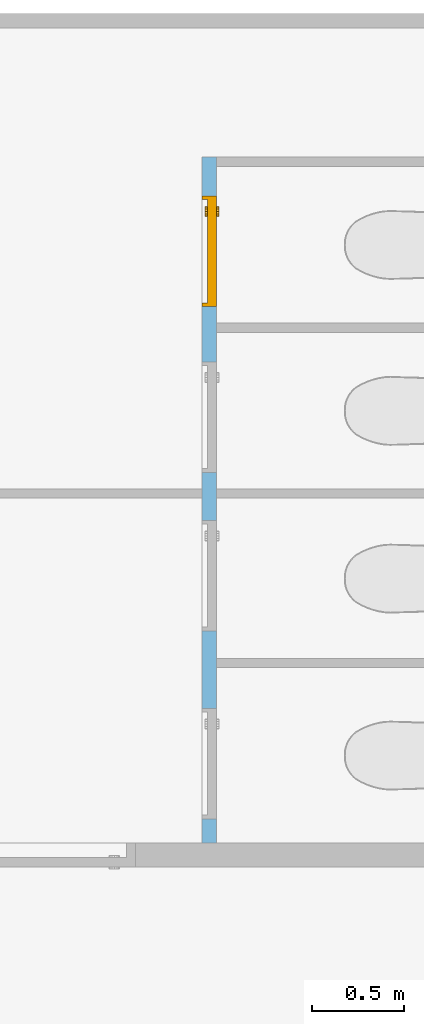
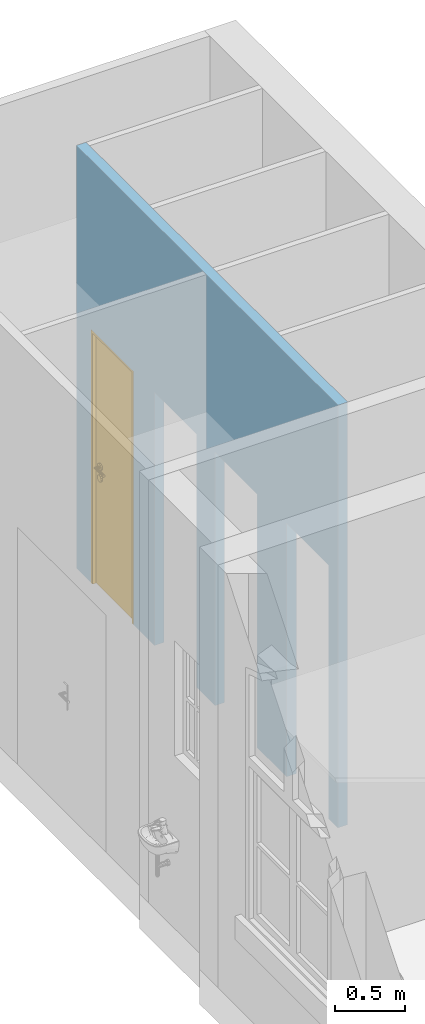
"""IFC4 building model written with IfcOpenShell, lengths in metres."""

from ifc_helpers import new_model, entity, si_unit, converted_unit, derived_unit, frame, frame_2d, origin, origin_with_axes, place, context, subcontext, project, spatial, polyline, rectangle, outline, extrude, faceted_brep, source, transform, mapped, material, layer, layer_set, layer_usage, type_object, element, fill, save


model = new_model("IFC4")

# Units and contexts
model_context = context("Model", 3, precision=1e-05, world=origin())
body_context = subcontext(model_context, "Body", "Model", "MODEL_VIEW")
ifc_project = project(units=[si_unit("LENGTHUNIT", "METRE"), si_unit("AREAUNIT", "SQUARE_METRE"), si_unit("VOLUMEUNIT", "CUBIC_METRE"), si_unit("MASSUNIT", "GRAM", prefix="KILO"), converted_unit("PLANEANGLEUNIT", "DEGREE", entity("IfcPlaneAngleMeasure", 0.0174532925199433), si_unit("PLANEANGLEUNIT", "RADIAN"), dimensions=[0, 0, 0, 0, 0, 0, 0]), derived_unit("THERMALTRANSMITTANCEUNIT", [(si_unit("POWERUNIT", "WATT"), 1), (si_unit("THERMODYNAMICTEMPERATUREUNIT", "KELVIN"), -1), (si_unit("LENGTHUNIT", "METRE"), -2)]), derived_unit("VOLUMETRICFLOWRATEUNIT", [(si_unit("LENGTHUNIT", "METRE"), 3), (converted_unit("TIMEUNIT", "hour", entity("IfcTimeMeasure", 3600.0), si_unit("TIMEUNIT", "SECOND"), dimensions=[0, 0, 1, 0, 0, 0, 0]), -1), (si_unit("LENGTHUNIT", "METRE"), -1)])], contexts=[model_context])

# Building, storeys
building_placement = place(None, origin())
building = spatial("IfcBuilding", under=ifc_project, at=building_placement, Name="Bestandsgebäude A - Sporthalle / Wohnhaus (TB 100-499)   ANPASSEN !!!", CompositionType="ELEMENT")
storey_1_placement = place(building_placement, origin())
storey_1 = spatial("IfcBuildingStorey", under=building, at=storey_1_placement, Name="Geb. A Erdgeschoss (TB 200-249)", CompositionType="ELEMENT", Elevation=0.0)
storey_2_placement = place(storey_1_placement, origin())
storey_2 = spatial("IfcBuildingStorey", under=storey_1, at=storey_2_placement, Name="Architektur (TB 200-209)", CompositionType="PARTIAL")

# Wall, openings, door
ifc_material = material(Name="masonry")
ifc_layer = layer(ifc_material, 0.08)
ifc_layer_set = layer_set([ifc_layer])
ifc_layer_usage = layer_usage(ifc_layer_set, "AXIS2", "POSITIVE", 0.0)
wall_placement = place(storey_2_placement, frame((-1.75999999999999, 20.98, 0.0), z_axis=(0.0, 0.0, 1.0), x_axis=(0.0, -1.0, 0.0)))
wall = element("IfcWall", 1, at=wall_placement, inside=storey_2, material=ifc_layer_usage, Name="masonry load-bearing", PredefinedType="USERDEFINED", context=body_context, shape_type="SweptSolid", body=[
    extrude(rectangle(XDim=3.72000000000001, YDim=0.08, at=frame_2d((1.86, 0.04), x_axis=(1.0, 0.0))), origin_with_axes(), (0.0, 0.0, 1.0), 3.67),
])
opening_1_placement = place(wall_placement, frame((0.210000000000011, 0.0, 0.0), z_axis=(0.0, 1.0, 0.0), x_axis=(0.0, 0.0, 1.0)))
opening_1 = element("IfcOpeningElement", 2, at=opening_1_placement, cuts=wall, Name="Door opening", PredefinedType="OPENING", context=body_context, shape_type="SweptSolid", body=[
    extrude(outline(polyline([(2.2, 0.6), (2.2, 0.0), (0.0, 0.0), (0.0, 0.6), (2.2, 0.6)])), origin_with_axes(), (0.0, 0.0, 1.0), 0.08),
])
opening_2_placement = place(wall_placement, frame((1.11000000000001, 0.0, 0.0), z_axis=(0.0, 1.0, 0.0), x_axis=(0.0, 0.0, 1.0)))
element("IfcOpeningElement", 3, at=opening_2_placement, cuts=wall, Name="Door opening", PredefinedType="OPENING", context=body_context, shape_type="SweptSolid", body=[
    extrude(outline(polyline([(2.2, 0.6), (2.2, 0.0), (0.0, 0.0), (0.0, 0.6), (2.2, 0.6)])), origin_with_axes(), (0.0, 0.0, 1.0), 0.08),
])
opening_3_placement = place(wall_placement, frame((2.99000000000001, 0.0, 0.0), z_axis=(0.0, 1.0, 0.0), x_axis=(0.0, 0.0, 1.0)))
element("IfcOpeningElement", 4, at=opening_3_placement, cuts=wall, Name="Door opening", PredefinedType="OPENING", context=body_context, shape_type="SweptSolid", body=[
    extrude(outline(polyline([(2.2, 0.6), (2.2, 0.0), (0.0, 0.0), (0.0, 0.6), (2.2, 0.6)])), origin_with_axes(), (0.0, 0.0, 1.0), 0.08),
])
opening_4_placement = place(wall_placement, frame((1.97000000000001, 0.0, 0.0), z_axis=(0.0, 1.0, 0.0), x_axis=(0.0, 0.0, 1.0)))
element("IfcOpeningElement", 5, at=opening_4_placement, cuts=wall, Name="Door opening", PredefinedType="OPENING", context=body_context, shape_type="SweptSolid", body=[
    extrude(outline(polyline([(2.2, 0.6), (2.2, 0.0), (0.0, 0.0), (0.0, 0.6), (2.2, 0.6)])), origin_with_axes(), (0.0, 0.0, 1.0), 0.08),
])
door_type = type_object("IfcDoorType", Name="door", OperationType="SINGLE_SWING_RIGHT", ParameterTakesPrecedence=False, PredefinedType="DOOR")
shared_shape = source(origin_with_axes(), body_context, "Body", "Brep", [
    faceted_brep([(0.0, 0.0800000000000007, 2.2), (0.0, 0.0800000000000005, 0.0), (0.0200000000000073, 0.0800000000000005, 0.0), (0.0200000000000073, 0.0800000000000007, 2.2), (0.0, 0.0, 0.0), (0.0, 0.0, 2.2), (0.0200000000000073, 0.0, 2.2), (0.0200000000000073, 0.0, 0.0)], [[[0, 1, 2, 3]], [[4, 5, 6, 7]], [[1, 0, 5, 4]], [[2, 1, 4, 7]], [[3, 2, 7, 6]], [[0, 3, 6, 5]]], orient=[[False], [False], [False], [False], [False], [False]]),
    faceted_brep([(0.580000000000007, 0.0800000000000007, 2.2), (0.580000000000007, 0.0800000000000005, 0.0), (0.600000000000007, 0.0800000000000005, 0.0), (0.600000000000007, 0.0800000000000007, 2.2), (0.580000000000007, 0.0, 0.0), (0.580000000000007, 0.0, 2.2), (0.600000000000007, 0.0, 2.2), (0.600000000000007, 0.0, 0.0)], [[[0, 1, 2, 3]], [[4, 5, 6, 7]], [[1, 0, 5, 4]], [[2, 1, 4, 7]], [[3, 2, 7, 6]], [[0, 3, 6, 5]]], orient=[[False], [False], [False], [False], [False], [False]]),
    faceted_brep([(0.0200000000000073, 0.0800000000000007, 2.2), (0.0200000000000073, 0.0800000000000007, 2.18), (0.580000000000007, 0.0800000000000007, 2.18), (0.580000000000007, 0.0800000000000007, 2.2), (0.0200000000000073, 0.0, 2.18), (0.0200000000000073, 0.0, 2.2), (0.580000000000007, 0.0, 2.2), (0.580000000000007, 0.0, 2.18)], [[[0, 1, 2, 3]], [[4, 5, 6, 7]], [[1, 0, 5, 4]], [[2, 1, 4, 7]], [[3, 2, 7, 6]], [[0, 3, 6, 5]]], orient=[[False], [False], [False], [False], [False], [False]]),
    faceted_brep([(0.0200000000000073, 0.0800000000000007, 2.18), (0.0200000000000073, 0.0800000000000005, 0.0), (0.580000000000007, 0.0800000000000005, 0.0), (0.580000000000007, 0.0800000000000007, 2.18), (0.0200000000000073, 0.0300000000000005, 0.0), (0.0200000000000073, 0.0300000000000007, 2.18), (0.580000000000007, 0.0300000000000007, 2.18), (0.580000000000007, 0.0300000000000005, 0.0)], [[[0, 1, 2, 3]], [[4, 5, 6, 7]], [[1, 0, 5, 4]], [[2, 1, 4, 7]], [[3, 2, 7, 6]], [[0, 3, 6, 5]]], orient=[[False], [False], [False], [False], [False], [False]]),
    faceted_brep([(0.108815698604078, 0.0300000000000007, 0.93625), (0.112500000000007, 0.0300000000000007, 0.95), (0.108815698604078, 0.0300000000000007, 0.96375), (0.0987500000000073, 0.0300000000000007, 0.973815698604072), (0.0850000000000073, 0.0300000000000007, 0.9775), (0.0712500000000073, 0.0300000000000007, 0.973815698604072), (0.0611843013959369, 0.0300000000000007, 0.96375), (0.0575000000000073, 0.0300000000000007, 0.95), (0.0611843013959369, 0.0300000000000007, 0.93625), (0.0712500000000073, 0.0300000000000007, 0.926184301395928), (0.0850000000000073, 0.0300000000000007, 0.9225), (0.0987500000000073, 0.0300000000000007, 0.926184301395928), (0.112500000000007, 0.0175000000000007, 0.95), (0.108815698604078, 0.0175000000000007, 0.93625), (0.0987500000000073, 0.0175000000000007, 0.926184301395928), (0.0850000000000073, 0.0175000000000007, 0.9225), (0.0712500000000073, 0.0175000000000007, 0.926184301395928), (0.0611843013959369, 0.0175000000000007, 0.93625), (0.0575000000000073, 0.0175000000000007, 0.95), (0.0611843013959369, 0.0175000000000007, 0.96375), (0.0712500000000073, 0.0175000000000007, 0.973815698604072), (0.0850000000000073, 0.0175000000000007, 0.9775), (0.0987500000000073, 0.0175000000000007, 0.973815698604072), (0.108815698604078, 0.0175000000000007, 0.96375)], [[[0, 1, 2, 3, 4, 5, 6, 7, 8, 9, 10, 11]], [[12, 13, 14, 15, 16, 17, 18, 19, 20, 21, 22, 23]], [[1, 0, 13, 12]], [[2, 1, 12, 23]], [[3, 2, 23, 22]], [[4, 3, 22, 21]], [[5, 4, 21, 20]], [[6, 5, 20, 19]], [[7, 6, 19, 18]], [[8, 7, 18, 17]], [[9, 8, 17, 16]], [[10, 9, 16, 15]], [[11, 10, 15, 14]], [[0, 11, 14, 13]]], orient=[[False], [False], [False], [False], [False], [False], [False], [False], [False], [False], [False], [False], [False], [False]]),
    faceted_brep([(0.108815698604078, 0.0300000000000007, 1.03625), (0.112500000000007, 0.0300000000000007, 1.05), (0.108815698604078, 0.0300000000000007, 1.06375), (0.0987500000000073, 0.0300000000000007, 1.07381569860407), (0.0850000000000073, 0.0300000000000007, 1.0775), (0.0712500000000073, 0.0300000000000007, 1.07381569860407), (0.0611843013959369, 0.0300000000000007, 1.06375), (0.0575000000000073, 0.0300000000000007, 1.05), (0.0611843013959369, 0.0300000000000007, 1.03625), (0.0712500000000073, 0.0300000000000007, 1.02618430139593), (0.0850000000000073, 0.0300000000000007, 1.0225), (0.0987500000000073, 0.0300000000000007, 1.02618430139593), (0.112500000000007, 0.0175000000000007, 1.05), (0.108815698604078, 0.0175000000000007, 1.03625), (0.0987500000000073, 0.0175000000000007, 1.02618430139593), (0.0850000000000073, 0.0175000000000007, 1.0225), (0.0712500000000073, 0.0175000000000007, 1.02618430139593), (0.0611843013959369, 0.0175000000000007, 1.03625), (0.0575000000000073, 0.0175000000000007, 1.05), (0.0611843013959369, 0.0175000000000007, 1.06375), (0.0712500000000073, 0.0175000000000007, 1.07381569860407), (0.0850000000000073, 0.0175000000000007, 1.0775), (0.0987500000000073, 0.0175000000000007, 1.07381569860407), (0.108815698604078, 0.0175000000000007, 1.06375)], [[[0, 1, 2, 3, 4, 5, 6, 7, 8, 9, 10, 11]], [[12, 13, 14, 15, 16, 17, 18, 19, 20, 21, 22, 23]], [[1, 0, 13, 12]], [[2, 1, 12, 23]], [[3, 2, 23, 22]], [[4, 3, 22, 21]], [[5, 4, 21, 20]], [[6, 5, 20, 19]], [[7, 6, 19, 18]], [[8, 7, 18, 17]], [[9, 8, 17, 16]], [[10, 9, 16, 15]], [[11, 10, 15, 14]], [[0, 11, 14, 13]]], orient=[[False], [False], [False], [False], [False], [False], [False], [False], [False], [False], [False], [False], [False], [False]]),
    faceted_brep([(0.0850000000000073, 0.0300000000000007, 1.06), (0.0800000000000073, 0.0300000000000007, 1.05866025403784), (0.0763397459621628, 0.0300000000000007, 1.055), (0.0750000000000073, 0.0300000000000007, 1.05), (0.0763397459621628, 0.0300000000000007, 1.045), (0.0800000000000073, 0.0300000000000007, 1.04133974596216), (0.0850000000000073, 0.0300000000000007, 1.04), (0.0900000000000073, 0.0300000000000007, 1.04133974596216), (0.0936602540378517, 0.0300000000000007, 1.045), (0.0950000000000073, 0.0300000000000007, 1.05), (0.0936602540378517, 0.0300000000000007, 1.055), (0.0900000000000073, 0.0300000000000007, 1.05866025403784), (0.0850000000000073, -0.00999999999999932, 1.06), (0.0800000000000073, -0.0149999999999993, 1.05866025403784), (0.0763397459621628, -0.0186602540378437, 1.055), (0.0750000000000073, -0.0199999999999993, 1.05), (0.0763397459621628, -0.0186602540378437, 1.045), (0.0800000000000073, -0.0149999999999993, 1.04133974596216), (0.0850000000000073, -0.00999999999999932, 1.04), (0.0900000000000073, -0.00499999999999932, 1.04133974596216), (0.0936602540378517, -0.00133974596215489, 1.045), (0.0950000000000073, 0.0, 1.05), (0.0936602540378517, -0.00133974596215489, 1.055), (0.0900000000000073, -0.00499999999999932, 1.05866025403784), (0.200000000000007, -0.00999999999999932, 1.06), (0.200000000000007, -0.00499999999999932, 1.05866025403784), (0.200000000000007, -0.00133974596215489, 1.055), (0.200000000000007, 0.0, 1.05), (0.200000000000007, -0.00133974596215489, 1.045), (0.200000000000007, -0.00499999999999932, 1.04133974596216), (0.200000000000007, -0.00999999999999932, 1.04), (0.200000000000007, -0.0149999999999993, 1.04133974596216), (0.200000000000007, -0.0186602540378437, 1.045), (0.200000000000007, -0.0199999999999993, 1.05), (0.200000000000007, -0.0186602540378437, 1.055), (0.200000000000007, -0.0149999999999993, 1.05866025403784)], [[[0, 1, 2, 3, 4, 5, 6, 7, 8, 9, 10, 11]], [[0, 12, 13, 1]], [[1, 13, 14, 2]], [[2, 14, 15, 3]], [[3, 15, 16, 4]], [[4, 16, 17, 5]], [[5, 17, 18, 6]], [[6, 18, 19, 7]], [[7, 19, 20, 8]], [[8, 20, 21, 9]], [[9, 21, 22, 10]], [[10, 22, 23, 11]], [[11, 23, 12, 0]], [[24, 25, 26, 27, 28, 29, 30, 31, 32, 33, 34, 35]], [[12, 24, 35, 13]], [[13, 35, 34, 14]], [[14, 34, 33, 15]], [[15, 33, 32, 16]], [[16, 32, 31, 17]], [[17, 31, 30, 18]], [[18, 30, 29, 19]], [[19, 29, 28, 20]], [[20, 28, 27, 21]], [[21, 27, 26, 22]], [[22, 26, 25, 23]], [[23, 25, 24, 12]]], orient=[[False], [False], [False], [False], [False], [False], [False], [False], [False], [False], [False], [False], [False], [False], [False], [False], [False], [False], [False], [False], [False], [False], [False], [False], [False], [False]]),
    faceted_brep([(0.108815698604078, 0.0800000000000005, 0.93625), (0.0987500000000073, 0.0800000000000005, 0.926184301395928), (0.0850000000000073, 0.0800000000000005, 0.9225), (0.0712500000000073, 0.0800000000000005, 0.926184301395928), (0.0611843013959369, 0.0800000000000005, 0.93625), (0.0575000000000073, 0.0800000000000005, 0.95), (0.0611843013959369, 0.0800000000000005, 0.96375), (0.0712500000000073, 0.0800000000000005, 0.973815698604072), (0.0850000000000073, 0.0800000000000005, 0.9775), (0.0987500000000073, 0.0800000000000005, 0.973815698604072), (0.108815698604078, 0.0800000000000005, 0.96375), (0.112500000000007, 0.0800000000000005, 0.95), (0.112500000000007, 0.0925000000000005, 0.95), (0.108815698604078, 0.0925000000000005, 0.96375), (0.0987500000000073, 0.0925000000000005, 0.973815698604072), (0.0850000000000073, 0.0925000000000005, 0.9775), (0.0712500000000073, 0.0925000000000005, 0.973815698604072), (0.0611843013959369, 0.0925000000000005, 0.96375), (0.0575000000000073, 0.0925000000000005, 0.95), (0.0611843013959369, 0.0925000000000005, 0.93625), (0.0712500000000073, 0.0925000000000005, 0.926184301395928), (0.0850000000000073, 0.0925000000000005, 0.9225), (0.0987500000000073, 0.0925000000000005, 0.926184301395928), (0.108815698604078, 0.0925000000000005, 0.93625)], [[[0, 1, 2, 3, 4, 5, 6, 7, 8, 9, 10, 11]], [[12, 13, 14, 15, 16, 17, 18, 19, 20, 21, 22, 23]], [[11, 12, 23, 0]], [[10, 13, 12, 11]], [[9, 14, 13, 10]], [[8, 15, 14, 9]], [[7, 16, 15, 8]], [[6, 17, 16, 7]], [[5, 18, 17, 6]], [[4, 19, 18, 5]], [[3, 20, 19, 4]], [[2, 21, 20, 3]], [[1, 22, 21, 2]], [[0, 23, 22, 1]]], orient=[[False], [False], [False], [False], [False], [False], [False], [False], [False], [False], [False], [False], [False], [False]]),
    faceted_brep([(0.108815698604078, 0.0800000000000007, 1.03625), (0.0987500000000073, 0.0800000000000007, 1.02618430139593), (0.0850000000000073, 0.0800000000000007, 1.0225), (0.0712500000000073, 0.0800000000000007, 1.02618430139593), (0.0611843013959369, 0.0800000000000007, 1.03625), (0.0575000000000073, 0.0800000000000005, 1.05), (0.0611843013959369, 0.0800000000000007, 1.06375), (0.0712500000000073, 0.0800000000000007, 1.07381569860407), (0.0850000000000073, 0.0800000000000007, 1.0775), (0.0987500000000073, 0.0800000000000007, 1.07381569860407), (0.108815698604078, 0.0800000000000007, 1.06375), (0.112500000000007, 0.0800000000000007, 1.05), (0.112500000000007, 0.0925000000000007, 1.05), (0.108815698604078, 0.0925000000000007, 1.06375), (0.0987500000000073, 0.0925000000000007, 1.07381569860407), (0.0850000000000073, 0.0925000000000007, 1.0775), (0.0712500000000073, 0.0925000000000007, 1.07381569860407), (0.0611843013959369, 0.0925000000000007, 1.06375), (0.0575000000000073, 0.0925000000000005, 1.05), (0.0611843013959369, 0.0925000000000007, 1.03625), (0.0712500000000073, 0.0925000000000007, 1.02618430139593), (0.0850000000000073, 0.0925000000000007, 1.0225), (0.0987500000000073, 0.0925000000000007, 1.02618430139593), (0.108815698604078, 0.0925000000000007, 1.03625)], [[[0, 1, 2, 3, 4, 5, 6, 7, 8, 9, 10, 11]], [[12, 13, 14, 15, 16, 17, 18, 19, 20, 21, 22, 23]], [[11, 12, 23, 0]], [[10, 13, 12, 11]], [[9, 14, 13, 10]], [[8, 15, 14, 9]], [[7, 16, 15, 8]], [[6, 17, 16, 7]], [[5, 18, 17, 6]], [[4, 19, 18, 5]], [[3, 20, 19, 4]], [[2, 21, 20, 3]], [[1, 22, 21, 2]], [[0, 23, 22, 1]]], orient=[[False], [False], [False], [False], [False], [False], [False], [False], [False], [False], [False], [False], [False], [False]]),
    faceted_brep([(0.0850000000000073, 0.0800000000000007, 1.06), (0.0900000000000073, 0.0800000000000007, 1.05866025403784), (0.0936602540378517, 0.0800000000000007, 1.055), (0.0950000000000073, 0.0800000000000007, 1.05), (0.0936602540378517, 0.0800000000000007, 1.045), (0.0900000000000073, 0.0800000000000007, 1.04133974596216), (0.0850000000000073, 0.0800000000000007, 1.04), (0.0800000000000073, 0.0800000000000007, 1.04133974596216), (0.0763397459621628, 0.0800000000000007, 1.045), (0.0750000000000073, 0.0800000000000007, 1.05), (0.0763397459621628, 0.0800000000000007, 1.055), (0.0800000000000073, 0.0800000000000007, 1.05866025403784), (0.0800000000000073, 0.125, 1.05866025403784), (0.0850000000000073, 0.12, 1.06), (0.0763397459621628, 0.128660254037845, 1.055), (0.0750000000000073, 0.13, 1.05), (0.0763397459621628, 0.128660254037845, 1.045), (0.0800000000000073, 0.125, 1.04133974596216), (0.0850000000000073, 0.12, 1.04), (0.0900000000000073, 0.115, 1.04133974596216), (0.0936602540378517, 0.111339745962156, 1.045), (0.0950000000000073, 0.11, 1.05), (0.0936602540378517, 0.111339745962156, 1.055), (0.0900000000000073, 0.115, 1.05866025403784), (0.200000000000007, 0.120000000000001, 1.06), (0.200000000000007, 0.125000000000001, 1.05866025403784), (0.200000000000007, 0.128660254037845, 1.055), (0.200000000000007, 0.13, 1.05), (0.200000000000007, 0.128660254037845, 1.045), (0.200000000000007, 0.125000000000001, 1.04133974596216), (0.200000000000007, 0.120000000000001, 1.04), (0.200000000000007, 0.115000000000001, 1.04133974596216), (0.200000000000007, 0.111339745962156, 1.045), (0.200000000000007, 0.110000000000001, 1.05), (0.200000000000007, 0.111339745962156, 1.055), (0.200000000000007, 0.115000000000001, 1.05866025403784)], [[[0, 1, 2, 3, 4, 5, 6, 7, 8, 9, 10, 11]], [[0, 11, 12, 13]], [[11, 10, 14, 12]], [[10, 9, 15, 14]], [[9, 8, 16, 15]], [[8, 7, 17, 16]], [[7, 6, 18, 17]], [[6, 5, 19, 18]], [[5, 4, 20, 19]], [[4, 3, 21, 20]], [[3, 2, 22, 21]], [[2, 1, 23, 22]], [[1, 0, 13, 23]], [[24, 25, 26, 27, 28, 29, 30, 31, 32, 33, 34, 35]], [[13, 12, 25, 24]], [[12, 14, 26, 25]], [[14, 15, 27, 26]], [[15, 16, 28, 27]], [[16, 17, 29, 28]], [[17, 18, 30, 29]], [[18, 19, 31, 30]], [[19, 20, 32, 31]], [[20, 21, 33, 32]], [[21, 22, 34, 33]], [[22, 23, 35, 34]], [[23, 13, 24, 35]]], orient=[[False], [False], [False], [False], [False], [False], [False], [False], [False], [False], [False], [False], [False], [False], [False], [False], [False], [False], [False], [False], [False], [False], [False], [False], [False], [False]]),
])
door_placement = place(opening_1_placement, frame((0.0, 0.0, 0.0), z_axis=(1.0, 0.0, 0.0), x_axis=(0.0, 1.0, 0.0)))
door = element("IfcDoor", 6, at=door_placement, inside=storey_2, type_object=door_type, Name="door", OverallHeight=2.2, OverallWidth=0.6, PredefinedType="DOOR", context=body_context, shape_type="MappedRepresentation", body=[
    mapped(shared_shape, transform((0.0, 0.0, 0.0), x_axis=(1.0, 0.0, 0.0), y_axis=(0.0, 1.0, 0.0), z_axis=(0.0, 0.0, 1.0), scale=1.0)),
])
fill(opening_1, door)

save(model, "model.ifc")
